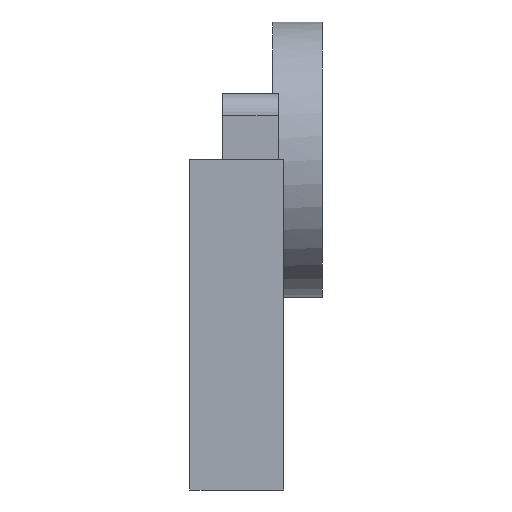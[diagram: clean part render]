
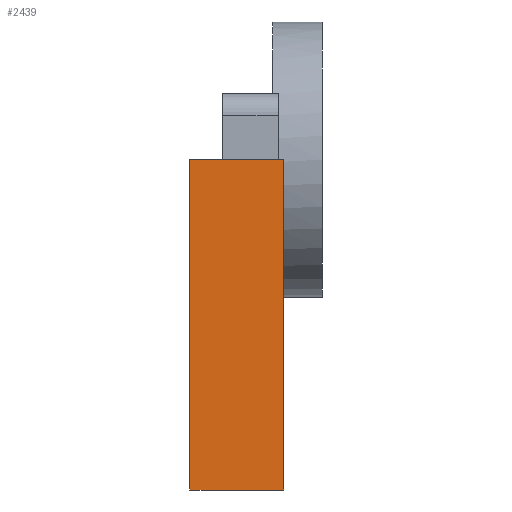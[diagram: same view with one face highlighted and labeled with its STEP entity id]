
A CAD part, left-side view. The second image highlights one B-rep face of the part: STEP entity #2439.
In plain terms, the highlighted planar face has unit normal (-1, 0, 0).
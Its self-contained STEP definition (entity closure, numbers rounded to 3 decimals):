
#71 = PLANE('',#72);
#72 = AXIS2_PLACEMENT_3D('',#73,#74,#75);
#73 = CARTESIAN_POINT('',(-40.,3.5,0.));
#74 = DIRECTION('',(0.,0.,1.));
#75 = DIRECTION('',(1.,0.,0.));
#1225 = VERTEX_POINT('',#1226);
#1226 = CARTESIAN_POINT('',(-40.,12.,0.));
#1242 = PLANE('',#1243);
#1243 = AXIS2_PLACEMENT_3D('',#1244,#1245,#1246);
#1244 = CARTESIAN_POINT('',(-40.,12.,-30.));
#1245 = DIRECTION('',(0.,1.,0.));
#1246 = DIRECTION('',(0.,0.,1.));
#1254 = EDGE_CURVE('',#1255,#1225,#1257,.T.);
#1255 = VERTEX_POINT('',#1256);
#1256 = CARTESIAN_POINT('',(-40.,3.5,0.));
#1257 = SURFACE_CURVE('',#1258,(#1262,#1269),.PCURVE_S1.);
#1258 = LINE('',#1259,#1260);
#1259 = CARTESIAN_POINT('',(-40.,3.5,0.));
#1260 = VECTOR('',#1261,1.);
#1261 = DIRECTION('',(0.,1.,0.));
#1262 = PCURVE('',#71,#1263);
#1263 = DEFINITIONAL_REPRESENTATION('',(#1264),#1268);
#1264 = LINE('',#1265,#1266);
#1265 = CARTESIAN_POINT('',(0.,0.));
#1266 = VECTOR('',#1267,1.);
#1267 = DIRECTION('',(0.,1.));
#1268 = ( GEOMETRIC_REPRESENTATION_CONTEXT(2) 
PARAMETRIC_REPRESENTATION_CONTEXT() REPRESENTATION_CONTEXT('2D SPACE',''
  ) );
#1269 = PCURVE('',#1270,#1275);
#1270 = PLANE('',#1271);
#1271 = AXIS2_PLACEMENT_3D('',#1272,#1273,#1274);
#1272 = CARTESIAN_POINT('',(-40.,3.5,-30.));
#1273 = DIRECTION('',(1.,0.,0.));
#1274 = DIRECTION('',(0.,0.,1.));
#1275 = DEFINITIONAL_REPRESENTATION('',(#1276),#1280);
#1276 = LINE('',#1277,#1278);
#1277 = CARTESIAN_POINT('',(30.,0.));
#1278 = VECTOR('',#1279,1.);
#1279 = DIRECTION('',(0.,-1.));
#1280 = ( GEOMETRIC_REPRESENTATION_CONTEXT(2) 
PARAMETRIC_REPRESENTATION_CONTEXT() REPRESENTATION_CONTEXT('2D SPACE',''
  ) );
#1298 = PLANE('',#1299);
#1299 = AXIS2_PLACEMENT_3D('',#1300,#1301,#1302);
#1300 = CARTESIAN_POINT('',(-40.,3.5,-30.));
#1301 = DIRECTION('',(0.,1.,0.));
#1302 = DIRECTION('',(0.,0.,1.));
#1864 = PLANE('',#1865);
#1865 = AXIS2_PLACEMENT_3D('',#1866,#1867,#1868);
#1866 = CARTESIAN_POINT('',(-40.,3.5,-30.));
#1867 = DIRECTION('',(0.,0.,1.));
#1868 = DIRECTION('',(1.,0.,0.));
#2346 = VERTEX_POINT('',#2347);
#2347 = CARTESIAN_POINT('',(-40.,12.,-30.));
#2368 = EDGE_CURVE('',#2346,#1225,#2369,.T.);
#2369 = SURFACE_CURVE('',#2370,(#2374,#2381),.PCURVE_S1.);
#2370 = LINE('',#2371,#2372);
#2371 = CARTESIAN_POINT('',(-40.,12.,-30.));
#2372 = VECTOR('',#2373,1.);
#2373 = DIRECTION('',(0.,0.,1.));
#2374 = PCURVE('',#1242,#2375);
#2375 = DEFINITIONAL_REPRESENTATION('',(#2376),#2380);
#2376 = LINE('',#2377,#2378);
#2377 = CARTESIAN_POINT('',(0.,0.));
#2378 = VECTOR('',#2379,1.);
#2379 = DIRECTION('',(1.,0.));
#2380 = ( GEOMETRIC_REPRESENTATION_CONTEXT(2) 
PARAMETRIC_REPRESENTATION_CONTEXT() REPRESENTATION_CONTEXT('2D SPACE',''
  ) );
#2381 = PCURVE('',#1270,#2382);
#2382 = DEFINITIONAL_REPRESENTATION('',(#2383),#2387);
#2383 = LINE('',#2384,#2385);
#2384 = CARTESIAN_POINT('',(0.,-8.5));
#2385 = VECTOR('',#2386,1.);
#2386 = DIRECTION('',(1.,0.));
#2387 = ( GEOMETRIC_REPRESENTATION_CONTEXT(2) 
PARAMETRIC_REPRESENTATION_CONTEXT() REPRESENTATION_CONTEXT('2D SPACE',''
  ) );
#2395 = VERTEX_POINT('',#2396);
#2396 = CARTESIAN_POINT('',(-40.,3.5,-30.));
#2417 = EDGE_CURVE('',#2395,#1255,#2418,.T.);
#2418 = SURFACE_CURVE('',#2419,(#2423,#2430),.PCURVE_S1.);
#2419 = LINE('',#2420,#2421);
#2420 = CARTESIAN_POINT('',(-40.,3.5,-30.));
#2421 = VECTOR('',#2422,1.);
#2422 = DIRECTION('',(0.,0.,1.));
#2423 = PCURVE('',#1298,#2424);
#2424 = DEFINITIONAL_REPRESENTATION('',(#2425),#2429);
#2425 = LINE('',#2426,#2427);
#2426 = CARTESIAN_POINT('',(0.,0.));
#2427 = VECTOR('',#2428,1.);
#2428 = DIRECTION('',(1.,0.));
#2429 = ( GEOMETRIC_REPRESENTATION_CONTEXT(2) 
PARAMETRIC_REPRESENTATION_CONTEXT() REPRESENTATION_CONTEXT('2D SPACE',''
  ) );
#2430 = PCURVE('',#1270,#2431);
#2431 = DEFINITIONAL_REPRESENTATION('',(#2432),#2436);
#2432 = LINE('',#2433,#2434);
#2433 = CARTESIAN_POINT('',(0.,0.));
#2434 = VECTOR('',#2435,1.);
#2435 = DIRECTION('',(1.,0.));
#2436 = ( GEOMETRIC_REPRESENTATION_CONTEXT(2) 
PARAMETRIC_REPRESENTATION_CONTEXT() REPRESENTATION_CONTEXT('2D SPACE',''
  ) );
#2439 = ADVANCED_FACE('',(#2440),#1270,.F.);
#2440 = FACE_BOUND('',#2441,.F.);
#2441 = EDGE_LOOP('',(#2442,#2443,#2464,#2465));
#2442 = ORIENTED_EDGE('',*,*,#2417,.F.);
#2443 = ORIENTED_EDGE('',*,*,#2444,.T.);
#2444 = EDGE_CURVE('',#2395,#2346,#2445,.T.);
#2445 = SURFACE_CURVE('',#2446,(#2450,#2457),.PCURVE_S1.);
#2446 = LINE('',#2447,#2448);
#2447 = CARTESIAN_POINT('',(-40.,3.5,-30.));
#2448 = VECTOR('',#2449,1.);
#2449 = DIRECTION('',(0.,1.,0.));
#2450 = PCURVE('',#1270,#2451);
#2451 = DEFINITIONAL_REPRESENTATION('',(#2452),#2456);
#2452 = LINE('',#2453,#2454);
#2453 = CARTESIAN_POINT('',(0.,0.));
#2454 = VECTOR('',#2455,1.);
#2455 = DIRECTION('',(0.,-1.));
#2456 = ( GEOMETRIC_REPRESENTATION_CONTEXT(2) 
PARAMETRIC_REPRESENTATION_CONTEXT() REPRESENTATION_CONTEXT('2D SPACE',''
  ) );
#2457 = PCURVE('',#1864,#2458);
#2458 = DEFINITIONAL_REPRESENTATION('',(#2459),#2463);
#2459 = LINE('',#2460,#2461);
#2460 = CARTESIAN_POINT('',(0.,0.));
#2461 = VECTOR('',#2462,1.);
#2462 = DIRECTION('',(0.,1.));
#2463 = ( GEOMETRIC_REPRESENTATION_CONTEXT(2) 
PARAMETRIC_REPRESENTATION_CONTEXT() REPRESENTATION_CONTEXT('2D SPACE',''
  ) );
#2464 = ORIENTED_EDGE('',*,*,#2368,.T.);
#2465 = ORIENTED_EDGE('',*,*,#1254,.F.);
